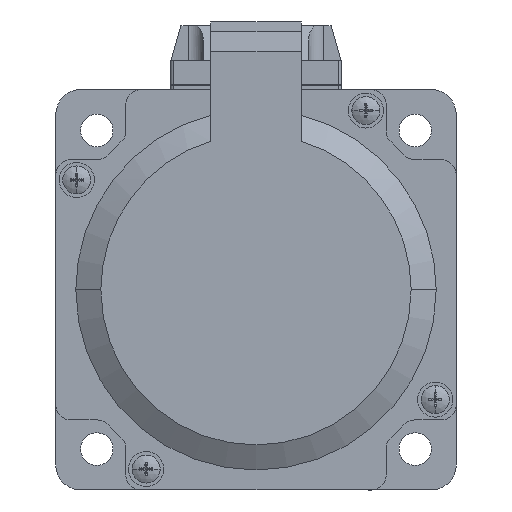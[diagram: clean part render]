
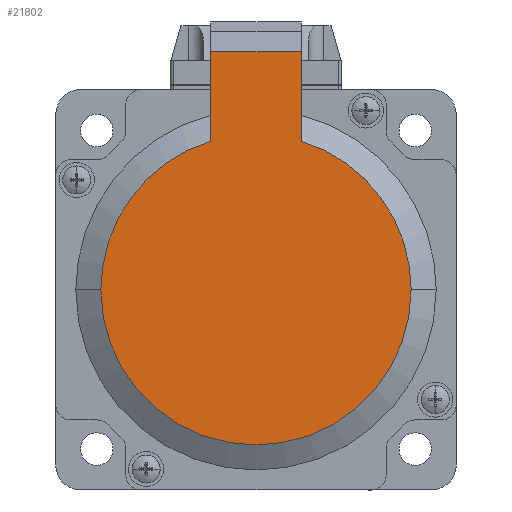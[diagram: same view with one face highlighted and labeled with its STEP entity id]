
A CAD part, left-side view. The second image highlights one B-rep face of the part: STEP entity #21802.
In plain terms, the highlighted planar face has unit normal (-1, 0, 0).
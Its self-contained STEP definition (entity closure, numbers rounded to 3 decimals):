
#373 = DIRECTION ( 'NONE',  ( -1., 0., 0. ) ) ;
#1781 = CARTESIAN_POINT ( 'NONE',  ( -152., -9., 29.665 ) ) ;
#2148 = EDGE_CURVE ( 'NONE', #19746, #25863, #23976, .T. ) ;
#2225 = VERTEX_POINT ( 'NONE', #8419 ) ;
#2533 = DIRECTION ( 'NONE',  ( 0., 1., 0. ) ) ;
#2798 = DIRECTION ( 'NONE',  ( 0., 1., 0. ) ) ;
#2943 = PLANE ( 'NONE',  #3700 ) ;
#3469 = EDGE_CURVE ( 'NONE', #25863, #26048, #23262, .T. ) ;
#3700 = AXIS2_PLACEMENT_3D ( 'NONE', #25207, #21315, #6799 ) ;
#4277 = CARTESIAN_POINT ( 'NONE',  ( -152., 9., 47.549 ) ) ;
#6799 = DIRECTION ( 'NONE',  ( 0., 1., 0. ) ) ;
#6896 = CIRCLE ( 'NONE', #13617, 31. ) ;
#7231 = AXIS2_PLACEMENT_3D ( 'NONE', #17070, #8688, #2798 ) ;
#7683 = EDGE_LOOP ( 'NONE', ( #16590, #10027, #24711, #23709, #10149, #14823 ) ) ;
#8125 = EDGE_CURVE ( 'NONE', #22053, #11328, #13826, .T. ) ;
#8419 = CARTESIAN_POINT ( 'NONE',  ( -152., 9., 47.549 ) ) ;
#8688 = DIRECTION ( 'NONE',  ( -1., 0., 0. ) ) ;
#9631 = DIRECTION ( 'NONE',  ( 0., 0., 1. ) ) ;
#10027 = ORIENTED_EDGE ( 'NONE', *, *, #2148, .T. ) ;
#10149 = ORIENTED_EDGE ( 'NONE', *, *, #8125, .T. ) ;
#10313 = CARTESIAN_POINT ( 'NONE',  ( -152., 0., 0. ) ) ;
#10613 = FACE_OUTER_BOUND ( 'NONE', #7683, .T. ) ;
#10683 = CARTESIAN_POINT ( 'NONE',  ( -152., 0., 0. ) ) ;
#10904 = DIRECTION ( 'NONE',  ( 0., -1., 0. ) ) ;
#11328 = VERTEX_POINT ( 'NONE', #17407 ) ;
#12285 = EDGE_CURVE ( 'NONE', #26048, #22053, #6896, .T. ) ;
#12527 = VECTOR ( 'NONE', #10904, 1000. ) ;
#13240 = VECTOR ( 'NONE', #18837, 1000. ) ;
#13617 = AXIS2_PLACEMENT_3D ( 'NONE', #10683, #23116, #2533 ) ;
#13826 = LINE ( 'NONE', #15734, #21181 ) ;
#13971 = EDGE_CURVE ( 'NONE', #19746, #2225, #19349, .T. ) ;
#14416 = AXIS2_PLACEMENT_3D ( 'NONE', #10313, #373, #14708 ) ;
#14708 = DIRECTION ( 'NONE',  ( 0., 1., 0. ) ) ;
#14823 = ORIENTED_EDGE ( 'NONE', *, *, #22183, .F. ) ;
#15734 = CARTESIAN_POINT ( 'NONE',  ( -152., -9., 47.549 ) ) ;
#15876 = CARTESIAN_POINT ( 'NONE',  ( -152., -31., 0. ) ) ;
#16590 = ORIENTED_EDGE ( 'NONE', *, *, #13971, .F. ) ;
#17070 = CARTESIAN_POINT ( 'NONE',  ( -152., 0., 0. ) ) ;
#17407 = CARTESIAN_POINT ( 'NONE',  ( -152., -9., 47.549 ) ) ;
#18003 = LINE ( 'NONE', #22720, #12527 ) ;
#18837 = DIRECTION ( 'NONE',  ( 0., 0., 1. ) ) ;
#18933 = CARTESIAN_POINT ( 'NONE',  ( -152., 9., 29.665 ) ) ;
#19349 = LINE ( 'NONE', #4277, #13240 ) ;
#19746 = VERTEX_POINT ( 'NONE', #18933 ) ;
#19760 = CARTESIAN_POINT ( 'NONE',  ( -152., 31., 0. ) ) ;
#21181 = VECTOR ( 'NONE', #9631, 1000. ) ;
#21315 = DIRECTION ( 'NONE',  ( -1., 0., 0. ) ) ;
#21802 = ADVANCED_FACE ( 'NONE', ( #10613 ), #2943, .T. ) ;
#22053 = VERTEX_POINT ( 'NONE', #1781 ) ;
#22183 = EDGE_CURVE ( 'NONE', #2225, #11328, #18003, .T. ) ;
#22720 = CARTESIAN_POINT ( 'NONE',  ( -152., 9., 47.549 ) ) ;
#23116 = DIRECTION ( 'NONE',  ( -1., 0., 0. ) ) ;
#23262 = CIRCLE ( 'NONE', #7231, 31. ) ;
#23709 = ORIENTED_EDGE ( 'NONE', *, *, #12285, .T. ) ;
#23976 = CIRCLE ( 'NONE', #14416, 31. ) ;
#24711 = ORIENTED_EDGE ( 'NONE', *, *, #3469, .T. ) ;
#25207 = CARTESIAN_POINT ( 'NONE',  ( -152., 31., 0. ) ) ;
#25863 = VERTEX_POINT ( 'NONE', #19760 ) ;
#26048 = VERTEX_POINT ( 'NONE', #15876 ) ;
